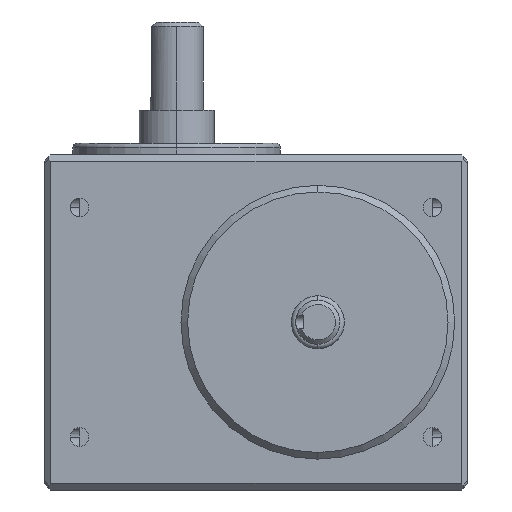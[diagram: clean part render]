
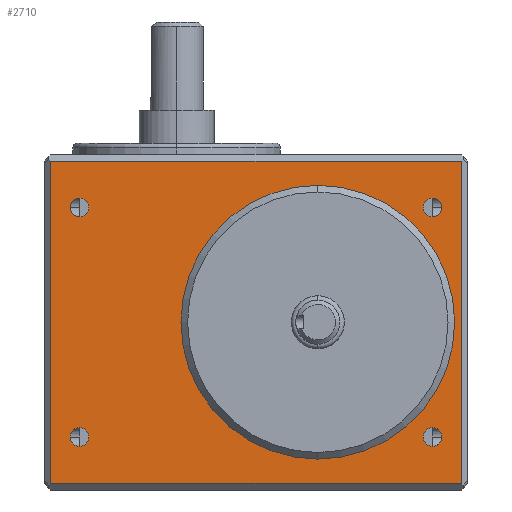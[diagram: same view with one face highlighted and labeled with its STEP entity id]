
A CAD part, left-side view. The second image highlights one B-rep face of the part: STEP entity #2710.
In plain terms, the highlighted planar face has unit normal (-1, 0, 0).
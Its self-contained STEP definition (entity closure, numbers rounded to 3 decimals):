
#356=CARTESIAN_POINT('',(-30.,-14.,-38.));
#357=DIRECTION('',(-1.,0.,0.));
#358=DIRECTION('',(0.,0.,1.));
#359=AXIS2_PLACEMENT_3D('',#356,#357,#358);
#361=CARTESIAN_POINT('',(-30.,-14.,-38.));
#362=DIRECTION('',(-1.,0.,0.));
#363=DIRECTION('',(0.,0.,-1.));
#364=AXIS2_PLACEMENT_3D('',#361,#362,#363);
#366=CARTESIAN_POINT('',(-30.,40.,-12.));
#367=DIRECTION('',(-1.,0.,0.));
#368=DIRECTION('',(0.,0.,1.));
#369=AXIS2_PLACEMENT_3D('',#366,#367,#368);
#371=CARTESIAN_POINT('',(-30.,40.,-12.));
#372=DIRECTION('',(-1.,0.,0.));
#373=DIRECTION('',(0.,0.,-1.));
#374=AXIS2_PLACEMENT_3D('',#371,#372,#373);
#376=CARTESIAN_POINT('',(-30.,40.,-64.));
#377=DIRECTION('',(-1.,0.,0.));
#378=DIRECTION('',(0.,0.,1.));
#379=AXIS2_PLACEMENT_3D('',#376,#377,#378);
#381=CARTESIAN_POINT('',(-30.,40.,-64.));
#382=DIRECTION('',(-1.,0.,0.));
#383=DIRECTION('',(0.,0.,-1.));
#384=AXIS2_PLACEMENT_3D('',#381,#382,#383);
#386=CARTESIAN_POINT('',(-30.,-40.,-64.));
#387=DIRECTION('',(-1.,0.,0.));
#388=DIRECTION('',(0.,0.,1.));
#389=AXIS2_PLACEMENT_3D('',#386,#387,#388);
#391=CARTESIAN_POINT('',(-30.,-40.,-64.));
#392=DIRECTION('',(-1.,0.,0.));
#393=DIRECTION('',(0.,0.,-1.));
#394=AXIS2_PLACEMENT_3D('',#391,#392,#393);
#396=CARTESIAN_POINT('',(-30.,-40.,-12.));
#397=DIRECTION('',(-1.,0.,0.));
#398=DIRECTION('',(0.,0.,1.));
#399=AXIS2_PLACEMENT_3D('',#396,#397,#398);
#401=CARTESIAN_POINT('',(-30.,-40.,-12.));
#402=DIRECTION('',(-1.,0.,0.));
#403=DIRECTION('',(0.,0.,-1.));
#404=AXIS2_PLACEMENT_3D('',#401,#402,#403);
#406=DIRECTION('',(0.,1.,0.));
#407=VECTOR('',#406,93.);
#408=CARTESIAN_POINT('',(-30.,-46.5,-74.5));
#409=LINE('',#408,#407);
#410=DIRECTION('',(0.,0.,-1.));
#411=VECTOR('',#410,73.);
#412=CARTESIAN_POINT('',(-30.,46.5,-1.5));
#413=LINE('',#412,#411);
#414=DIRECTION('',(0.,-1.,0.));
#415=VECTOR('',#414,93.);
#416=CARTESIAN_POINT('',(-30.,46.5,-1.5));
#417=LINE('',#416,#415);
#418=DIRECTION('',(0.,0.,-1.));
#419=VECTOR('',#418,73.);
#420=CARTESIAN_POINT('',(-30.,-46.5,-1.5));
#421=LINE('',#420,#419);
#1790=CARTESIAN_POINT('',(-30.,-14.,-7.));
#1791=CARTESIAN_POINT('',(-30.,-14.,-69.));
#1792=VERTEX_POINT('',#1790);
#1793=VERTEX_POINT('',#1791);
#1902=CARTESIAN_POINT('',(-30.,40.,-9.9));
#1903=CARTESIAN_POINT('',(-30.,40.,-14.1));
#1904=VERTEX_POINT('',#1902);
#1905=VERTEX_POINT('',#1903);
#1906=CARTESIAN_POINT('',(-30.,40.,-61.9));
#1907=CARTESIAN_POINT('',(-30.,40.,-66.1));
#1908=VERTEX_POINT('',#1906);
#1909=VERTEX_POINT('',#1907);
#1910=CARTESIAN_POINT('',(-30.,-40.,-61.9));
#1911=CARTESIAN_POINT('',(-30.,-40.,-66.1));
#1912=VERTEX_POINT('',#1910);
#1913=VERTEX_POINT('',#1911);
#1914=CARTESIAN_POINT('',(-30.,-40.,-9.9));
#1915=CARTESIAN_POINT('',(-30.,-40.,-14.1));
#1916=VERTEX_POINT('',#1914);
#1917=VERTEX_POINT('',#1915);
#1930=CARTESIAN_POINT('',(-30.,-46.5,-74.5));
#1931=CARTESIAN_POINT('',(-30.,46.5,-74.5));
#1932=VERTEX_POINT('',#1930);
#1933=VERTEX_POINT('',#1931);
#1940=CARTESIAN_POINT('',(-30.,-46.5,-1.5));
#1941=VERTEX_POINT('',#1940);
#1942=CARTESIAN_POINT('',(-30.,46.5,-1.5));
#1943=VERTEX_POINT('',#1942);
#2667=CARTESIAN_POINT('',(-30.,48.,0.));
#2668=DIRECTION('',(-1.,0.,0.));
#2669=DIRECTION('',(0.,-1.,0.));
#2670=AXIS2_PLACEMENT_3D('',#2667,#2668,#2669);
#2671=PLANE('',#2670);
#2673=ORIENTED_EDGE('',*,*,#2672,.T.);
#2674=ORIENTED_EDGE('',*,*,#2656,.F.);
#2675=ORIENTED_EDGE('',*,*,#2627,.T.);
#2677=ORIENTED_EDGE('',*,*,#2676,.T.);
#2678=EDGE_LOOP('',(#2673,#2674,#2675,#2677));
#2679=FACE_OUTER_BOUND('',#2678,.F.);
#2681=ORIENTED_EDGE('',*,*,#2680,.T.);
#2683=ORIENTED_EDGE('',*,*,#2682,.T.);
#2684=EDGE_LOOP('',(#2681,#2683));
#2685=FACE_BOUND('',#2684,.F.);
#2687=ORIENTED_EDGE('',*,*,#2686,.T.);
#2689=ORIENTED_EDGE('',*,*,#2688,.T.);
#2690=EDGE_LOOP('',(#2687,#2689));
#2691=FACE_BOUND('',#2690,.F.);
#2693=ORIENTED_EDGE('',*,*,#2692,.T.);
#2695=ORIENTED_EDGE('',*,*,#2694,.T.);
#2696=EDGE_LOOP('',(#2693,#2695));
#2697=FACE_BOUND('',#2696,.F.);
#2699=ORIENTED_EDGE('',*,*,#2698,.T.);
#2701=ORIENTED_EDGE('',*,*,#2700,.T.);
#2702=EDGE_LOOP('',(#2699,#2701));
#2703=FACE_BOUND('',#2702,.F.);
#2705=ORIENTED_EDGE('',*,*,#2704,.T.);
#2707=ORIENTED_EDGE('',*,*,#2706,.T.);
#2708=EDGE_LOOP('',(#2705,#2707));
#2709=FACE_BOUND('',#2708,.F.);
#360=CIRCLE('',#359,31.);
#365=CIRCLE('',#364,31.);
#370=CIRCLE('',#369,2.1);
#375=CIRCLE('',#374,2.1);
#380=CIRCLE('',#379,2.1);
#385=CIRCLE('',#384,2.1);
#390=CIRCLE('',#389,2.1);
#395=CIRCLE('',#394,2.1);
#400=CIRCLE('',#399,2.1);
#405=CIRCLE('',#404,2.1);
#2627=EDGE_CURVE('',#1943,#1941,#417,.T.);
#2656=EDGE_CURVE('',#1943,#1933,#413,.T.);
#2672=EDGE_CURVE('',#1932,#1933,#409,.T.);
#2676=EDGE_CURVE('',#1941,#1932,#421,.T.);
#2680=EDGE_CURVE('',#1904,#1905,#370,.T.);
#2682=EDGE_CURVE('',#1905,#1904,#375,.T.);
#2686=EDGE_CURVE('',#1908,#1909,#380,.T.);
#2688=EDGE_CURVE('',#1909,#1908,#385,.T.);
#2692=EDGE_CURVE('',#1912,#1913,#390,.T.);
#2694=EDGE_CURVE('',#1913,#1912,#395,.T.);
#2698=EDGE_CURVE('',#1916,#1917,#400,.T.);
#2700=EDGE_CURVE('',#1917,#1916,#405,.T.);
#2704=EDGE_CURVE('',#1792,#1793,#360,.T.);
#2706=EDGE_CURVE('',#1793,#1792,#365,.T.);
#2710=ADVANCED_FACE('',(#2679,#2685,#2691,#2697,#2703,#2709),#2671,.T.);
